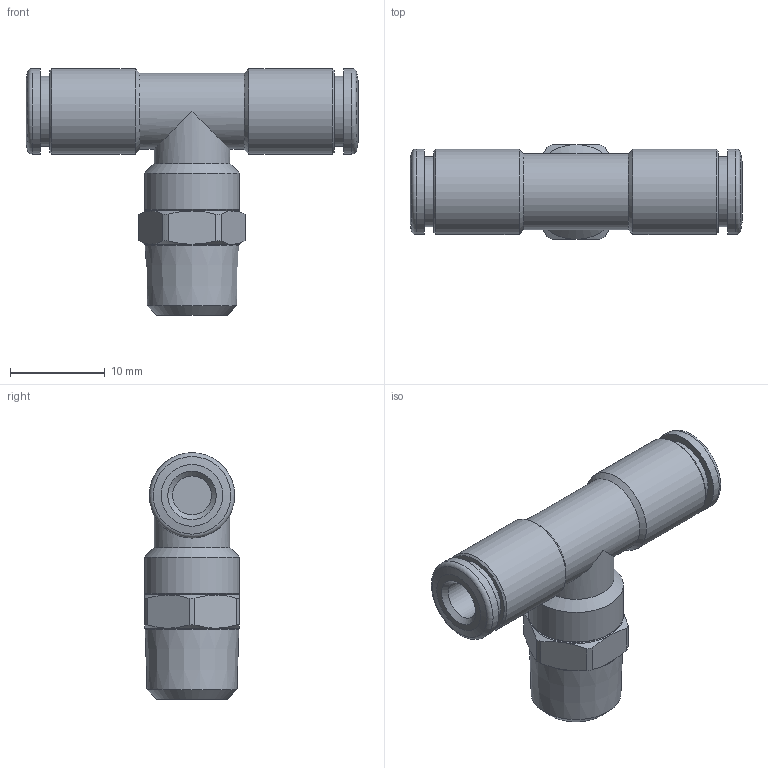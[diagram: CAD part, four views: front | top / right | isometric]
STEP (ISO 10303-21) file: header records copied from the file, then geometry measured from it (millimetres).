
FILE_DESCRIPTION(/* description */ (''),/* implementation_level */ '2;1');
FILE_NAME(/* name */ '202051-ES_STX20K_4_R18_07.04.16',/* time_stamp */ '2016-04-07T09:39:17+02:00',/* author */ (''),/* organization */ (''),/* preprocessor_version */ 'ST-DEVELOPER v14',/* originating_system */ 'HiCAD 2013 1802.4 Build 509',/* authorisation */ '');
FILE_SCHEMA (('AUTOMOTIVE_DESIGN { 1 0 10303 214 1 1 1 1 }'));
Length unit declared in the file: millimetre
Products named in the file (5): Root; Körper; Gewindestück; DR4-1_NEU
Assembly tree (4 placements, depth 2):
  Root
    Körper
    Gewindestück
    DR4-1_NEU
    DR4-1_NEU
Bounding box: 35 x 10 x 26 mm (x, y, z)
Volume: 2538.7 mm3; surface area: 2977.1 mm2
Topology: 4 solids, 4 shells, 75 faces, 147 edges, 88 vertices
Faces by surface type: cone 29, cylinder 23, plane 21, torus 2
Full cylindrical faces by diameter (mm): 4.1 x2, 6 x1, 6.4 x2, 7.4 x2, 7.6 x2, 8 x2, 9 x4, 9.884 x1, 10 x1
Entity records: 2941 total; most frequent: DIRECTION 372, CARTESIAN_POINT 278, PRESENTATION_STYLE_ASSIGNMENT 222, COLOUR_RGB 219, DRAUGHTING_PRE_DEFINED_CURVE_FONT 218, CURVE_STYLE 218, OVER_RIDING_STYLED_ITEM 218, ORIENTED_EDGE 218
